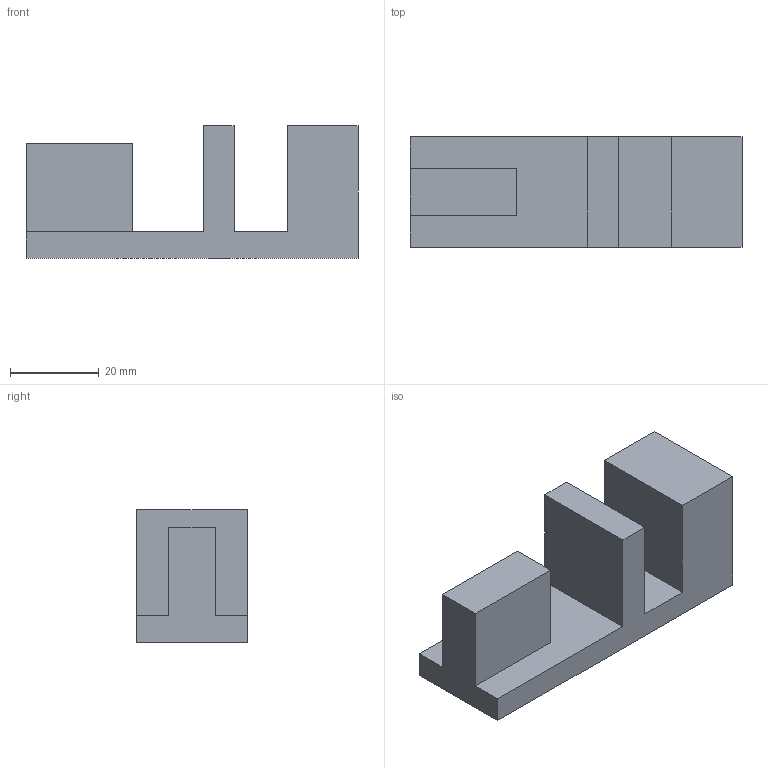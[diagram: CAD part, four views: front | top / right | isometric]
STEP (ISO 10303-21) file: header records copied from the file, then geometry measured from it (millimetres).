
FILE_DESCRIPTION(('CATIA V5 STEP Exchange'),'2;1');
FILE_NAME('G:\够快云库\系统集成开发部\1.部门成员\孙国\工装\气密检测工装\STP\VDC阀\GZ-QMVDC.08_V1 支撑块.stp','2021-06-08T03:48:12+00:00',('none'),('none'),'CATIA Version 5 Release 20 GA (IN-10)','CATIA V5 STEP AP214','none');
FILE_SCHEMA(('AUTOMOTIVE_DESIGN { 1 0 10303 214 1 1 1 1 }'));
Length unit declared in the file: millimetre
Products named in the file (1): 顶出块
Bounding box: 75 x 25 x 30 mm (x, y, z)
Volume: 29936.7 mm3; surface area: 10032.8 mm2
Topology: 1 solids, 1 shells, 19 faces, 48 edges, 32 vertices
Faces by surface type: plane 17, cylinder 2
Entity records: 569 total; most frequent: CARTESIAN_POINT 97, ORIENTED_EDGE 96, DIRECTION 80, EDGE_CURVE 48, VECTOR 44, LINE 44, VERTEX_POINT 32, AXIS2_PLACEMENT_3D 21
